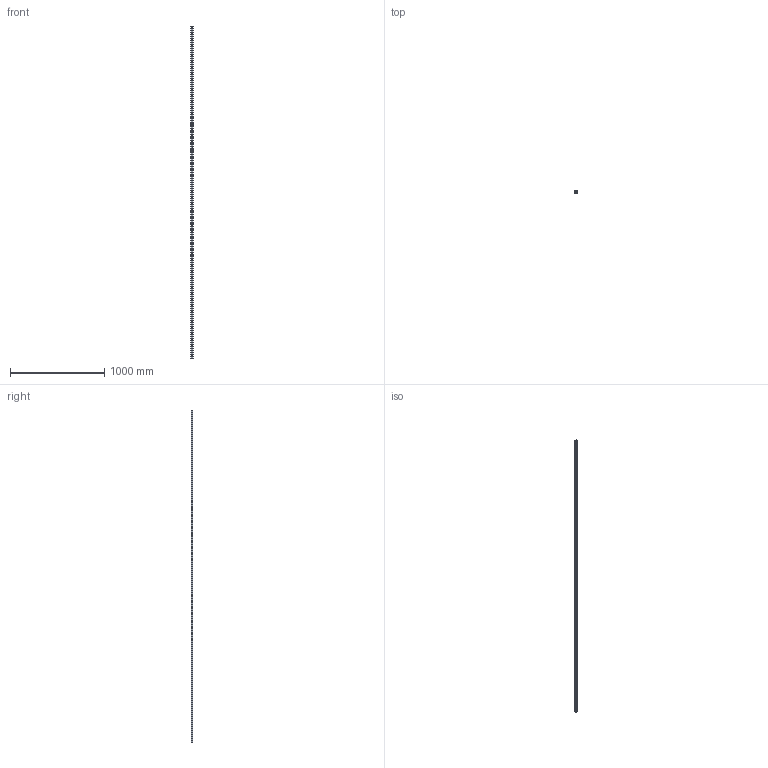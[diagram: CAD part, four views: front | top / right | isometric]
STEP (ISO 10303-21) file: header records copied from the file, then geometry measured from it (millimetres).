
FILE_DESCRIPTION (( 'STEP AP203' ), '1' );
FILE_NAME ('L1016.BRF25-3520.step', '2019-06-13T08:47:10', ( '' ), ( '' ), 'SwSTEP 2.0', 'SolidWorks 2017', '' );
FILE_SCHEMA (( 'CONFIG_CONTROL_DESIGN' ));
Length unit declared in the file: millimetre
Products named in the file (1): L1016.BRF25-3520
Bounding box: 23 x 19.2 x 3520 mm (x, y, z)
Volume: 1343976.6 mm3; surface area: 323758.6 mm2
Topology: 1 solids, 1 shells, 439 faces, 1016 edges, 579 vertices
Faces by surface type: cylinder 240, cone 118, plane 81
Entity records: 11757 total; most frequent: DIRECTION 2258, CARTESIAN_POINT 1917, ORIENTED_EDGE 1796, AXIS2_PLACEMENT_3D 920, EDGE_CURVE 898, VERTEX_POINT 579, EDGE_LOOP 557, CIRCLE 480
